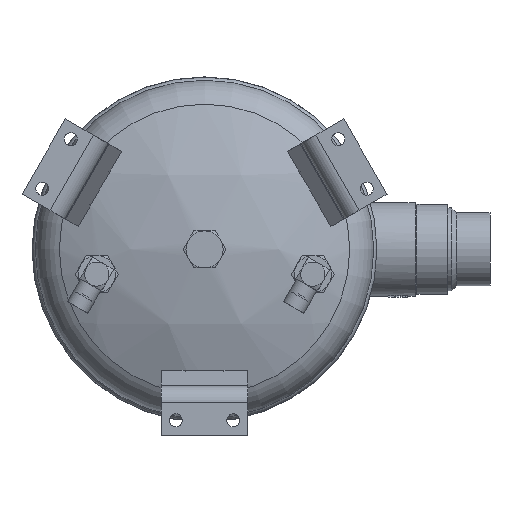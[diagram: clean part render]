
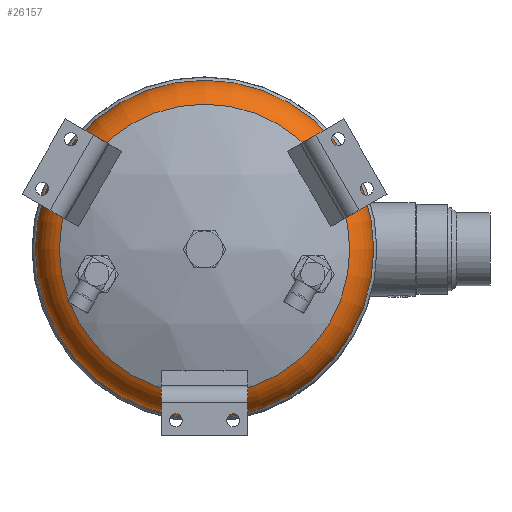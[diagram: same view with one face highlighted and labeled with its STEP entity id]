
A CAD part, front view. The second image highlights one B-rep face of the part: STEP entity #26157.
In plain terms, the highlighted toroidal (fillet/blend) face has major radius 103.2 mm and minor radius 33.4 mm.
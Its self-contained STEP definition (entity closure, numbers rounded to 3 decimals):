
#155=TOROIDAL_SURFACE('',#27450,103.2,33.4);
#444=FACE_BOUND('',#6099,.T.);
#4497=FACE_OUTER_BOUND('',#6098,.T.);
#6098=EDGE_LOOP('',(#24199));
#6099=EDGE_LOOP('',(#24200));
#10376=CIRCLE('',#27437,117.235);
#10389=CIRCLE('',#27451,136.6);
#12897=VERTEX_POINT('',#58641);
#12913=VERTEX_POINT('',#58746);
#16708=EDGE_CURVE('',#12897,#12897,#10376,.T.);
#16724=EDGE_CURVE('',#12913,#12913,#10389,.T.);
#24199=ORIENTED_EDGE('',*,*,#16708,.F.);
#24200=ORIENTED_EDGE('',*,*,#16724,.T.);
#26157=ADVANCED_FACE('',(#4497,#444),#155,.T.);
#27437=AXIS2_PLACEMENT_3D('',#58642,#31670,#31671);
#27450=AXIS2_PLACEMENT_3D('',#58745,#31696,#31697);
#27451=AXIS2_PLACEMENT_3D('',#58747,#31698,#31699);
#31670=DIRECTION('center_axis',(0.,-1.,0.));
#31671=DIRECTION('ref_axis',(-1.,0.,0.));
#31696=DIRECTION('center_axis',(0.,-1.,0.));
#31697=DIRECTION('ref_axis',(0.,0.,
1.));
#31698=DIRECTION('center_axis',(0.,-1.,0.));
#31699=DIRECTION('ref_axis',(-1.,0.,0.));
#58641=CARTESIAN_POINT('',(117.235,-62.54,0.));
#58642=CARTESIAN_POINT('Origin',(0.,-62.54,
0.));
#58745=CARTESIAN_POINT('Origin',(0.,-32.232,
0.));
#58746=CARTESIAN_POINT('',(136.6,-32.232,0.));
#58747=CARTESIAN_POINT('Origin',(0.,-32.232,
0.));
